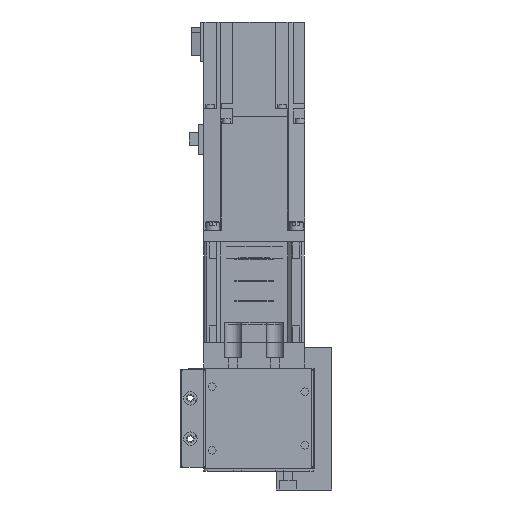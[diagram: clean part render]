
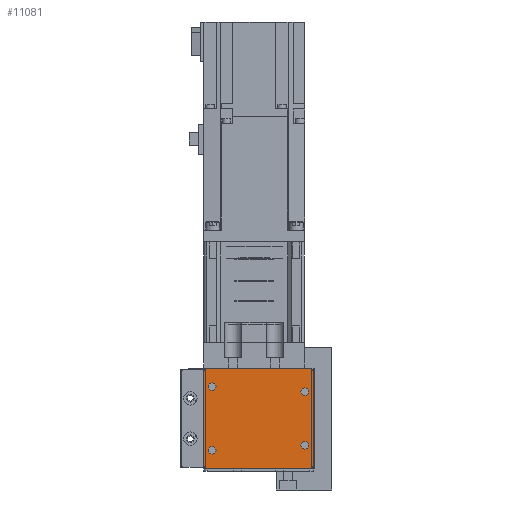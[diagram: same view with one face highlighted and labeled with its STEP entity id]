
A CAD part, left-side view. The second image highlights one B-rep face of the part: STEP entity #11081.
In plain terms, the highlighted planar face has unit normal (-1, 0, 0) as drawn and (0, 0, 1) by its records, which use the part's own axes.
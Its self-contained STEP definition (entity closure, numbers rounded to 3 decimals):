
#529=CIRCLE('',#12031,2.);
#531=CIRCLE('',#12035,2.);
#533=CIRCLE('',#12039,2.);
#534=CIRCLE('',#12042,2.25);
#536=CIRCLE('',#12045,2.25);
#538=CIRCLE('',#12048,2.25);
#540=CIRCLE('',#12051,2.25);
#543=CIRCLE('',#12055,2.);
#1765=ORIENTED_EDGE('',*,*,#4329,.F.);
#1766=ORIENTED_EDGE('',*,*,#4327,.F.);
#1767=ORIENTED_EDGE('',*,*,#4325,.F.);
#1768=ORIENTED_EDGE('',*,*,#4323,.F.);
#1769=ORIENTED_EDGE('',*,*,#4303,.T.);
#1770=ORIENTED_EDGE('',*,*,#4307,.T.);
#1771=ORIENTED_EDGE('',*,*,#4310,.T.);
#1772=ORIENTED_EDGE('',*,*,#4313,.T.);
#1773=ORIENTED_EDGE('',*,*,#4316,.T.);
#1774=ORIENTED_EDGE('',*,*,#4319,.T.);
#1775=ORIENTED_EDGE('',*,*,#4322,.T.);
#1776=ORIENTED_EDGE('',*,*,#4332,.T.);
#4303=EDGE_CURVE('',#5705,#5704,#6725,.T.);
#4307=EDGE_CURVE('',#5704,#5707,#529,.T.);
#4310=EDGE_CURVE('',#5707,#5709,#6730,.T.);
#4313=EDGE_CURVE('',#5709,#5711,#531,.T.);
#4316=EDGE_CURVE('',#5711,#5713,#6734,.T.);
#4319=EDGE_CURVE('',#5713,#5715,#533,.T.);
#4322=EDGE_CURVE('',#5715,#5717,#6738,.T.);
#4323=EDGE_CURVE('',#5718,#5718,#534,.T.);
#4325=EDGE_CURVE('',#5720,#5720,#536,.T.);
#4327=EDGE_CURVE('',#5722,#5722,#538,.T.);
#4329=EDGE_CURVE('',#5724,#5724,#540,.T.);
#4332=EDGE_CURVE('',#5717,#5705,#543,.T.);
#5704=VERTEX_POINT('',#17075);
#5705=VERTEX_POINT('',#17077);
#5707=VERTEX_POINT('',#17083);
#5709=VERTEX_POINT('',#17089);
#5711=VERTEX_POINT('',#17095);
#5713=VERTEX_POINT('',#17101);
#5715=VERTEX_POINT('',#17107);
#5717=VERTEX_POINT('',#17113);
#5718=VERTEX_POINT('',#17117);
#5720=VERTEX_POINT('',#17122);
#5722=VERTEX_POINT('',#17127);
#5724=VERTEX_POINT('',#17132);
#6725=LINE('',#17076,#7817);
#6730=LINE('',#17090,#7822);
#6734=LINE('',#17102,#7826);
#6738=LINE('',#17114,#7830);
#7817=VECTOR('',#13850,1000.);
#7822=VECTOR('',#13863,1000.);
#7826=VECTOR('',#13875,1000.);
#7830=VECTOR('',#13887,1000.);
#9005=EDGE_LOOP('',(#1765));
#9006=EDGE_LOOP('',(#1766));
#9007=EDGE_LOOP('',(#1767));
#9008=EDGE_LOOP('',(#1768));
#9009=EDGE_LOOP('',(#1769,#1770,#1771,#1772,#1773,#1774,#1775,#1776));
#9903=FACE_BOUND('',#9005,.T.);
#9904=FACE_BOUND('',#9006,.T.);
#9905=FACE_BOUND('',#9007,.T.);
#9906=FACE_BOUND('',#9008,.T.);
#9907=FACE_BOUND('',#9009,.T.);
#10549=PLANE('',#12056);
#11081=ADVANCED_FACE('',(#9903,#9904,#9905,#9906,#9907),#10549,.T.);
#12031=AXIS2_PLACEMENT_3D('',#17084,#13857,#13858);
#12035=AXIS2_PLACEMENT_3D('',#17096,#13869,#13870);
#12039=AXIS2_PLACEMENT_3D('',#17108,#13881,#13882);
#12042=AXIS2_PLACEMENT_3D('',#17116,#13890,#13891);
#12045=AXIS2_PLACEMENT_3D('',#17121,#13896,#13897);
#12048=AXIS2_PLACEMENT_3D('',#17126,#13902,#13903);
#12051=AXIS2_PLACEMENT_3D('',#17131,#13908,#13909);
#12055=AXIS2_PLACEMENT_3D('',#17137,#13916,#13917);
#12056=AXIS2_PLACEMENT_3D('',#17138,#13918,#13919);
#13850=DIRECTION('',(0.,-1.,0.));
#13857=DIRECTION('',(0.,0.,1.));
#13858=DIRECTION('',(1.,0.,0.));
#13863=DIRECTION('',(1.,0.,0.));
#13869=DIRECTION('',(0.,0.,1.));
#13870=DIRECTION('',(1.,0.,0.));
#13875=DIRECTION('',(0.,1.,0.));
#13881=DIRECTION('',(0.,0.,1.));
#13882=DIRECTION('',(1.,0.,0.));
#13887=DIRECTION('',(-1.,0.,0.));
#13890=DIRECTION('',(0.,0.,1.));
#13891=DIRECTION('',(1.,0.,0.));
#13896=DIRECTION('',(0.,0.,1.));
#13897=DIRECTION('',(1.,0.,0.));
#13902=DIRECTION('',(0.,0.,1.));
#13903=DIRECTION('',(1.,0.,0.));
#13908=DIRECTION('',(0.,0.,1.));
#13909=DIRECTION('',(1.,0.,0.));
#13916=DIRECTION('',(0.,0.,1.));
#13917=DIRECTION('',(1.,0.,0.));
#13918=DIRECTION('',(0.,0.,1.));
#13919=DIRECTION('',(1.,0.,0.));
#17075=CARTESIAN_POINT('',(-30.,-30.5,1.5));
#17076=CARTESIAN_POINT('',(-30.,30.5,1.5));
#17077=CARTESIAN_POINT('',(-30.,30.5,1.5));
#17083=CARTESIAN_POINT('',(-28.,-32.5,1.5));
#17084=CARTESIAN_POINT('',(-28.,-30.5,1.5));
#17089=CARTESIAN_POINT('',(28.,-32.5,1.5));
#17090=CARTESIAN_POINT('',(-28.,-32.5,1.5));
#17095=CARTESIAN_POINT('',(30.,-30.5,1.5));
#17096=CARTESIAN_POINT('',(28.,-30.5,1.5));
#17101=CARTESIAN_POINT('',(30.,30.5,1.5));
#17102=CARTESIAN_POINT('',(30.,-30.5,1.5));
#17107=CARTESIAN_POINT('',(28.,32.5,1.5));
#17108=CARTESIAN_POINT('',(28.,30.5,1.5));
#17113=CARTESIAN_POINT('',(-28.,32.5,1.5));
#17114=CARTESIAN_POINT('',(28.,32.5,1.5));
#17116=CARTESIAN_POINT('',(19.,27.5,1.5));
#17117=CARTESIAN_POINT('',(21.25,27.5,1.5));
#17121=CARTESIAN_POINT('',(16.,-27.5,1.5));
#17122=CARTESIAN_POINT('',(18.25,-27.5,1.5));
#17126=CARTESIAN_POINT('',(-16.,-27.5,1.5));
#17127=CARTESIAN_POINT('',(-13.75,-27.5,1.5));
#17131=CARTESIAN_POINT('',(-19.,27.5,1.5));
#17132=CARTESIAN_POINT('',(-16.75,27.5,1.5));
#17137=CARTESIAN_POINT('',(-28.,30.5,1.5));
#17138=CARTESIAN_POINT('',(-28.,-30.5,1.5));
